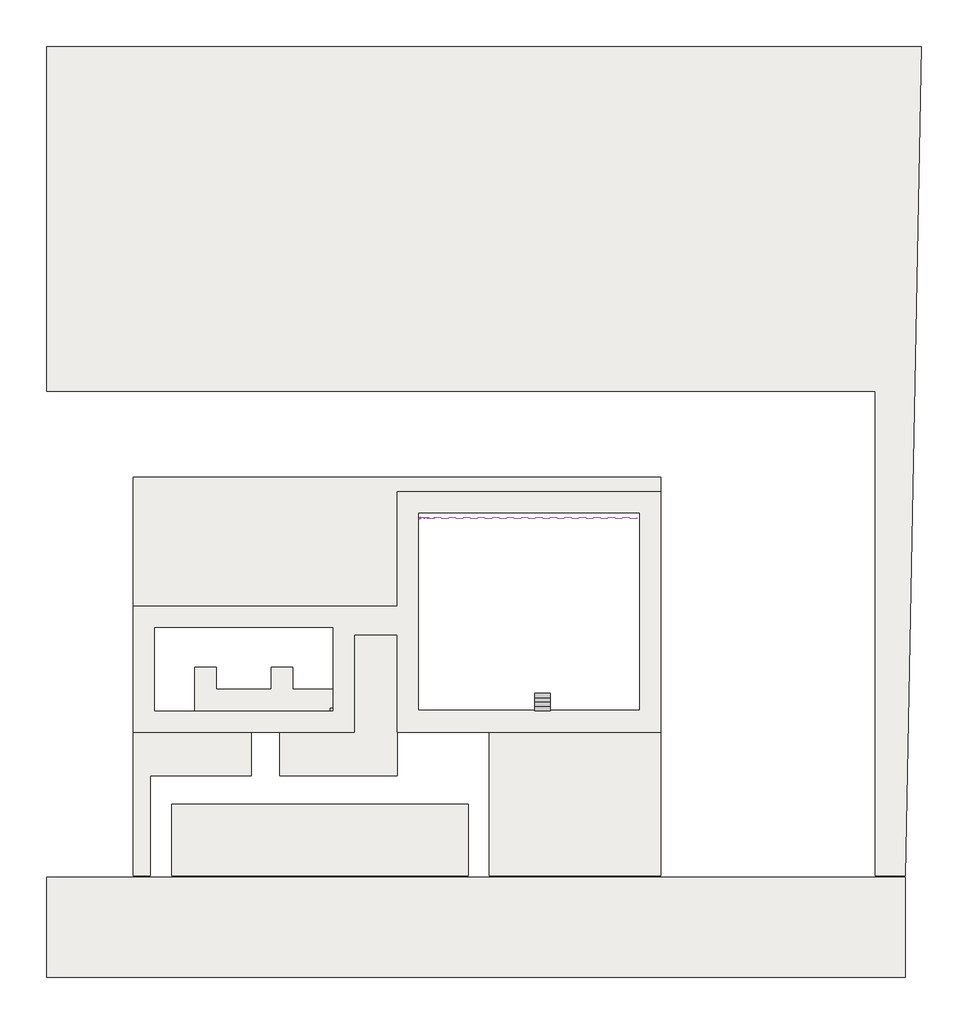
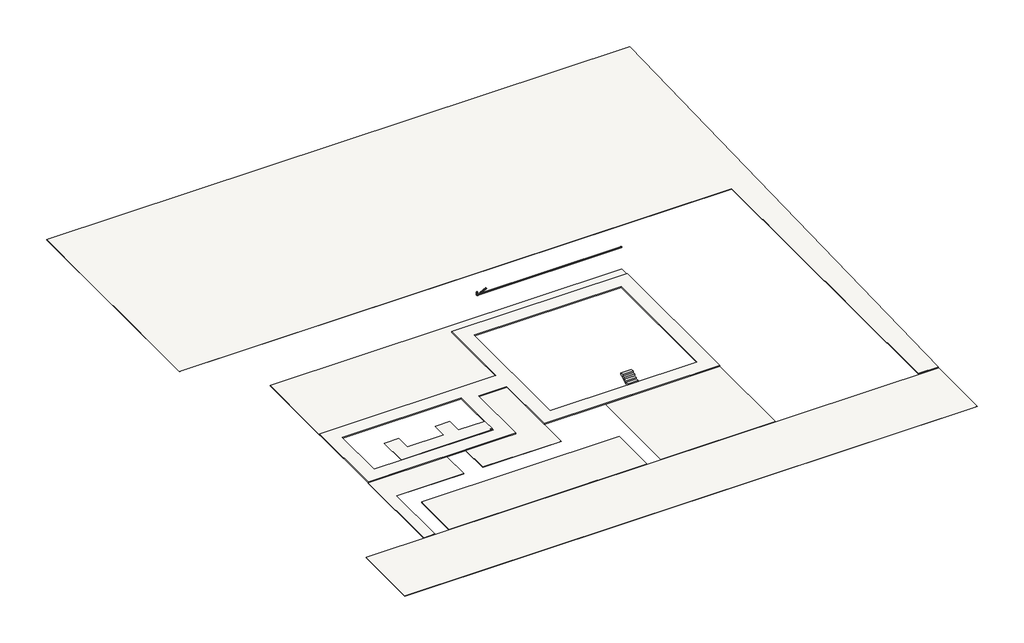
# One storey: 6 slabs, 3 beams, 1 stair flight.
"""IFC4 building model written with IfcOpenShell, lengths in millimetres."""

from ifc_helpers import new_model, si_unit, frame, origin, origin_with_axes, place, context, project, spatial, polyline, outline, extrude, faceted_brep, transform, mapped, element, save
from components import viga_c_10x10_a960db8e, viga_c_10x10_2131d65c, viga_c_10x10_99a8d166

model = new_model("IFC4")

# Units and contexts
model_context = context("Model", 3, world=origin())
ifc_project = project(units=[si_unit("LENGTHUNIT", "METRE", prefix="MILLI")], contexts=[model_context])

# Site, building, storey
site = spatial("IfcSite", under=ifc_project)
building = spatial("IfcBuilding", under=site)
storey = spatial("IfcBuildingStorey", under=building, Name="NÍVEL 0", Elevation=0.0)

# Beams
placement = place(None, origin())
viga_c_10x10_shape = viga_c_10x10_a960db8e(model_context)
element("IfcBeam", 1, ObjectType="VIGA PERFIL C AÇO : VIGA C 10X10", at=placement, inside=storey, context=model_context, shape_type="MappedRepresentation", body=[
    mapped(viga_c_10x10_shape, transform((3731.8201839, 9418.8563425, 4700.0), x_axis=(1.0, 0.0, 0.0), y_axis=(0.0, 0.0, -1.0), z_axis=(0.0, 1.0, 0.0))),
])
viga_c_10x10_2_shape = viga_c_10x10_2131d65c(model_context)
element("IfcBeam", 2, ObjectType="VIGA PERFIL C AÇO : VIGA C 10X10", at=placement, inside=storey, context=model_context, shape_type="MappedRepresentation", body=[
    mapped(viga_c_10x10_2_shape, transform((-3863.1798161, 9418.8563425, 4923.6125534), x_axis=(0.0, 0.0, 1.0), y_axis=(-1.0, 0.0, 0.0), z_axis=(0.0, -1.0, 0.0))),
])
viga_c_10x10_3_shape = viga_c_10x10_99a8d166(model_context)
element("IfcBeam", 3, ObjectType="VIGA PERFIL C AÇO : VIGA C 10X10", at=placement, inside=storey, context=model_context, shape_type="MappedRepresentation", body=[
    mapped(viga_c_10x10_3_shape, transform((-3226.5131495, 9418.8563425, 5019.1125534), x_axis=(0.8939890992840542, 0.0, 0.44808870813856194), y_axis=(-0.44808870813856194, 0.0, 0.8939890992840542), z_axis=(0.0, -1.0, 0.0))),
])

# Slabs
element("IfcSlab", 4, ObjectType="CALÇADA CONCRETO DESEMPENADO", at=placement, inside=storey, context=model_context, shape_type="SweptSolid", body=[
    extrude(outline(polyline([(12976.8201839, -5533.2411617), (-5423.1798161, -5533.2411617), (-5423.1798161, 1264.0436304), (-8423.1798161, 1264.0436304), (-8423.1798161, -5533.2411617), (-23873.1798161, -5533.2411617), (-23873.1798161, 3250.6280604), (-5423.1798161, 3250.6280604), (-5423.1798161, 11268.8563425), (12976.8201839, 11268.8563425), (12976.8201839, -5533.2411617)]), holes=[polyline([(11476.8201839, -3988.2411617), (11476.8201839, 9768.8563425), (-3923.1798161, 9768.8563425), (-3923.1798161, -3988.2411617), (11476.8201839, -3988.2411617)]), polyline([(-22373.1798161, -4053.2411617), (-9923.1798161, -4053.2411617), (-9923.1798161, 1750.6280604), (-22373.1798161, 1750.6280604), (-22373.1798161, -4053.2411617)])]), origin_with_axes(), (0.0, 0.0, 1.0), 100.0),
])
element("IfcSlab", 5, ObjectType="PISO  2 cm", at=placement, inside=storey, context=model_context, shape_type="SweptSolid", body=[
    extrude(outline(polyline([(-19573.1798161, -4053.2411617), (-19573.1798161, -1003.2411617), (-18073.1798161, -1003.2411617), (-18073.1798161, -2553.2411617), (-14223.1798161, -2553.2411617), (-14223.1798161, -1003.2411617), (-12723.1798161, -1003.2411617), (-12723.1798161, -2553.2411617), (-9923.1798161, -2553.2411617), (-9923.1798161, -3853.2411617), (-10123.1798161, -3853.2411617), (-10123.1798161, -4053.2411617), (-19573.1798161, -4053.2411617)])), frame((0.0, 0.0, 110.0), z_axis=(0.0, 0.0, 1.0), x_axis=(1.0, 0.0, 0.0)), (0.0, 0.0, 1.0), 20.0),
])
element("IfcSlab", 6, ObjectType="CALÇADA CONCRETO DESEMPENADO", at=placement, inside=storey, context=model_context, shape_type="SweptSolid", body=[
    extrude(outline(polyline([(-21173.0222276, -10581.0235359), (-465.8222276, -10581.0235359), (-465.8222276, -15581.0235359), (-21173.0222276, -15581.0235359), (-21173.0222276, -10581.0235359)])), frame((0.0, 0.0, -100.0), z_axis=(0.0, 0.0, 1.0), x_axis=(1.0, 0.0, 0.0)), (0.0, 0.0, 1.0), 100.0),
])
element("IfcSlab", 7, ObjectType="GRAMA", at=placement, inside=storey, context=model_context, shape_type="SweptSolid", body=[
    extrude(outline(polyline([(12976.8201839, 12268.8563425), (12976.8201839, 11268.8563425), (-5423.1798161, 11268.8563425), (-5423.1798161, 3250.6280604), (-23873.1798161, 3250.6280604), (-23873.1798161, 12268.8563425), (12976.8201839, 12268.8563425)])), frame((0.0, 0.0, -50.0), z_axis=(0.0, 0.0, 1.0), x_axis=(1.0, 0.0, 0.0)), (0.0, 0.0, 1.0), 50.0),
    extrude(outline(polyline([(-8423.1798161, 1264.0436304), (-5423.1798161, 1264.0436304), (-5423.1798161, -8581.0235359), (-13623.1798161, -8581.0235359), (-13623.1798161, -5533.2411617), (-8423.1798161, -5533.2411617), (-8423.1798161, 1264.0436304)])), frame((0.0, 0.0, -50.0), z_axis=(0.0, 0.0, 1.0), x_axis=(1.0, 0.0, 0.0)), (0.0, 0.0, 1.0), 50.0),
    extrude(outline(polyline([(-15623.1798161, -5533.2411617), (-15623.1798161, -8581.0235359), (-22673.0222276, -8581.0235359), (-22673.0222276, -15581.0235359), (-23873.1798161, -15581.0235359), (-23873.1798161, -5533.2411617), (-15623.1798161, -5533.2411617)])), frame((0.0, 0.0, -50.0), z_axis=(0.0, 0.0, 1.0), x_axis=(1.0, 0.0, 0.0)), (0.0, 0.0, 1.0), 50.0),
    extrude(outline(polyline([(1007.7926234, -5533.2411617), (12976.8201839, -5533.2411617), (12976.8201839, -15581.0235359), (1007.7926234, -15581.0235359), (1007.7926234, -5533.2411617)])), frame((0.0, 0.0, -50.0), z_axis=(0.0, 0.0, 1.0), x_axis=(1.0, 0.0, 0.0)), (0.0, 0.0, 1.0), 50.0),
])
element("IfcSlab", 8, ObjectType="GRAMA", at=placement, inside=storey, context=model_context, shape_type="SweptSolid", body=[
    extrude(outline(polyline([(-29923.5222276, 18268.8563425), (-29923.5222276, 42360.1707703), (31187.2445959, 42360.1707703), (30076.4777724, -15581.0235359), (27976.8201839, -15581.0235359), (27976.8201839, 18268.8563425), (-29923.5222276, 18268.8563425)])), origin_with_axes(), (0.0, 0.0, 1.0), 50.0),
])
element("IfcSlab", 9, ObjectType="terra", at=placement, inside=storey, context=model_context, shape_type="SweptSolid", body=[
    extrude(outline(polyline([(30076.4777724, -22679.8292297), (-29923.5222276, -22679.8292297), (-29923.5222276, -15679.8292297), (30076.4777724, -15679.8292297), (30076.4777724, -22679.8292297)])), frame((0.0, 0.0, -50.0), z_axis=(0.0, 0.0, 1.0), x_axis=(1.0, 0.0, 0.0)), (0.0, 0.0, 1.0), 50.0),
])

# Stair flight
element("IfcStairFlight", 10, ObjectType="Profundidade de 150 mm", at=placement, inside=storey, context=model_context, shape_type="Brep", body=[
    faceted_brep([(4176.8201839, -3733.2411617, 220.0), (4176.8201839, -4033.2411617, 220.0), (5276.8201839, -4033.2411617, 220.0), (5276.8201839, -3733.2411617, 220.0), (4176.8201839, -3733.2411617, 50.0), (4176.8201839, -4033.2411617, 50.0), (5276.8201839, -4033.2411617, 50.0), (5276.8201839, -3733.2411617, 50.0), (4176.8201839, -3433.2411617, 390.0), (4176.8201839, -3733.2411617, 390.0), (5276.8201839, -3733.2411617, 390.0), (5276.8201839, -3433.2411617, 390.0), (4176.8201839, -3433.2411617, 217.5906035), (4176.8201839, -3728.9892856, 50.0), (5276.8201839, -3728.9892856, 50.0), (5276.8201839, -3433.2411617, 217.5906035), (4176.8201839, -3133.2411617, 560.0), (4176.8201839, -3433.2411617, 560.0), (5276.8201839, -3433.2411617, 560.0), (5276.8201839, -3133.2411617, 560.0), (4176.8201839, -3133.2411617, 387.5906035), (5276.8201839, -3133.2411617, 387.5906035), (4176.8201839, -2833.2411617, 730.0), (4176.8201839, -3133.2411617, 730.0), (5276.8201839, -3133.2411617, 730.0), (5276.8201839, -2833.2411617, 730.0), (4176.8201839, -2833.2411617, 557.5906035), (5276.8201839, -2833.2411617, 557.5906035)], [[[0, 1, 2, 3]], [[1, 0, 4, 5]], [[2, 1, 5, 6]], [[3, 2, 6, 7]], [[8, 9, 10, 11]], [[4, 0, 9, 8, 12, 13]], [[0, 3, 10, 9]], [[3, 7, 14, 15, 11, 10]], [[16, 17, 18, 19]], [[17, 16, 20, 12, 8]], [[8, 11, 18, 17]], [[19, 18, 11, 15, 21]], [[22, 23, 24, 25]], [[23, 22, 26, 20, 16]], [[16, 19, 24, 23]], [[25, 24, 19, 21, 27]], [[22, 25, 27, 26]], [[5, 4, 13, 14, 7, 6]], [[14, 13, 12, 20, 26, 27, 21, 15]]]),
])

save(model, "model.ifc")
